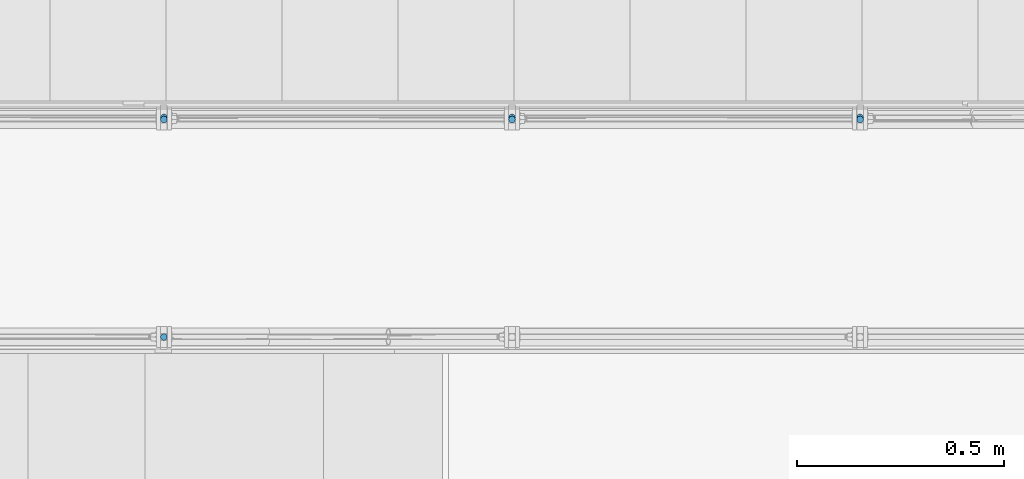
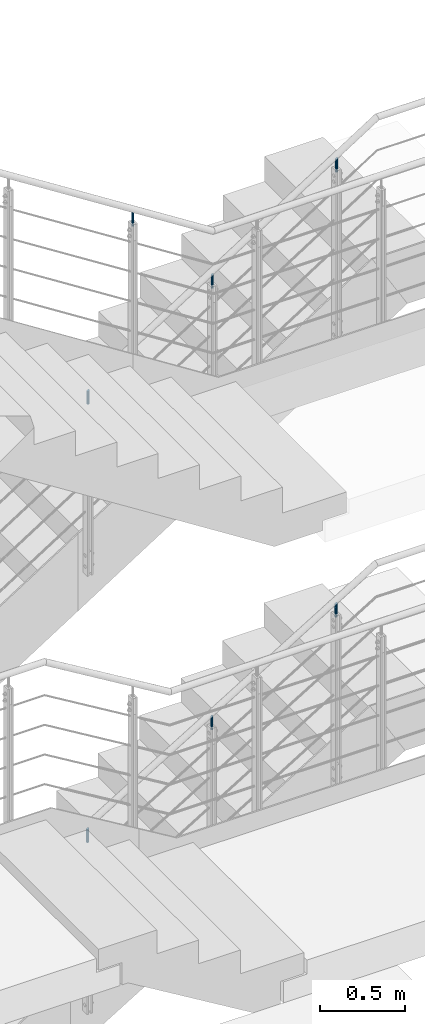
# One storey, part 7 of 98: 7 columns.
"""IFC2X3 building model written with IfcOpenShell, lengths in millimetres."""

from ifc_helpers import new_model, entity, si_unit, converted_unit, frame, origin, origin_with_axes, origin_2d, place, context, project, spatial, circle, extrude, clip, halfspace, material, element, save


model = new_model("IFC2X3")

# Units and contexts
model_context = context("Model", 3, precision=1e-09, world=origin_with_axes())
ifc_project = project(units=[si_unit("LENGTHUNIT", "METRE", prefix="MILLI"), si_unit("AREAUNIT", "SQUARE_METRE"), si_unit("VOLUMEUNIT", "CUBIC_METRE"), converted_unit("PLANEANGLEUNIT", "DEGREE", entity("IfcPlaneAngleMeasure", 0.01745329), si_unit("PLANEANGLEUNIT", "RADIAN"), dimensions=[0, 0, 0, 0, 0, 0, 0])], contexts=[model_context])

# Site, building, storey
site_placement = place(None, origin_with_axes())
site = spatial("IfcSite", under=ifc_project, at=site_placement, Name="Maybachstra?e 2, 71563 Affalterbach", CompositionType="ELEMENT")
building_placement = place(site_placement, origin_with_axes())
building = spatial("IfcBuilding", under=site, at=building_placement, Name="Struktur 1", CompositionType="ELEMENT")
storey_placement = place(building_placement, origin_with_axes())
storey = spatial("IfcBuildingStorey", under=building, at=storey_placement, Name="Default Storey", CompositionType="ELEMENT", Elevation=0.0)

# Columns
ifc_material = material(Name="1.4301")
column_1_placement = place(None, frame((10535.029157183, -45.0, 6444.971589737), z_axis=(0.0, 0.0, -1.0), x_axis=(1.0, 0.0, 0.0)))
element("IfcColumn", 1, at=column_1_placement, inside=storey, material=ifc_material, Name="-", ObjectType="-", context=model_context, shape_type="Clipping", body=[
    clip(extrude(circle(Radius=8.0, at=origin_2d()), origin(), (0.0, 0.0, 1.0), 113.412216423), halfspace(frame((-10407.841875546, -45.0, 6644.735527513), z_axis=(0.537070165, 0.0, 0.843537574), x_axis=(0.0, -1.0, 0.0)), True)),
])
column_2_placement = place(None, frame((9695.029157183, -570.0, 7499.85415603), z_axis=(0.0, 0.0, 1.0), x_axis=(-1.0, 0.0, 0.0)))
element("IfcColumn", 2, at=column_2_placement, inside=storey, material=ifc_material, Name="-", ObjectType="-", context=model_context, shape_type="Clipping", body=[
    clip(extrude(circle(Radius=8.0, at=origin_2d()), origin(), (0.0, 0.0, -1.0), 113.419634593), halfspace(frame((3498.708731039, -570.0, 2213.648852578), z_axis=(0.53780184, 0.0, -0.843071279), x_axis=(0.0, 1.0, 0.0)), True)),
])
column_3_placement = place(None, frame((9695.029157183, -40.0, 2774.675903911), z_axis=(0.0, 0.0, -1.0), x_axis=(1.0, 0.0, 0.0)))
element("IfcColumn", 3, at=column_3_placement, inside=storey, material=ifc_material, Name="-", ObjectType="-", context=model_context, shape_type="Clipping", body=[
    clip(extrude(circle(Radius=8.0, at=origin_2d()), origin(), (0.0, 0.0, 1.0), 113.243566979), halfspace(frame((-8299.601920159, -40.0, 5067.967914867), z_axis=(0.519813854, 0.0, 0.854279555), x_axis=(0.0, -1.0, 0.0)), True)),
])
column_4_placement = place(None, frame((10535.029157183, -40.0, 3285.800903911), z_axis=(0.0, 0.0, -1.0), x_axis=(1.0, 0.0, 0.0)))
element("IfcColumn", 4, at=column_4_placement, inside=storey, material=ifc_material, Name="-", ObjectType="-", context=model_context, shape_type="Clipping", body=[
    clip(extrude(circle(Radius=8.0, at=origin_2d()), origin(), (0.0, 0.0, 1.0), 113.243566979), halfspace(frame((-9139.601920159, -40.0, 5579.092914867), z_axis=(0.519813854, 0.0, 0.854279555), x_axis=(0.0, -1.0, 0.0)), True)),
])
column_5_placement = place(None, frame((11375.029157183, -40.0, 3796.925903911), z_axis=(0.0, 0.0, -1.0), x_axis=(1.0, 0.0, 0.0)))
element("IfcColumn", 5, at=column_5_placement, inside=storey, material=ifc_material, Name="-", ObjectType="-", context=model_context, shape_type="Clipping", body=[
    clip(extrude(circle(Radius=8.0, at=origin_2d()), origin(), (0.0, 0.0, 1.0), 113.243566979), halfspace(frame((-9979.601920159, -40.0, 6090.217914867), z_axis=(0.519813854, 0.0, 0.854279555), x_axis=(0.0, -1.0, 0.0)), True)),
])
column_6_placement = place(None, frame((11375.029157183, -45.0, 6979.78942405), z_axis=(0.0, 0.0, -1.0), x_axis=(1.0, 0.0, 0.0)))
element("IfcColumn", 6, at=column_6_placement, inside=storey, material=ifc_material, Name="-", ObjectType="-", context=model_context, shape_type="Clipping", body=[
    clip(extrude(circle(Radius=8.0, at=origin_2d()), origin(), (0.0, 0.0, 1.0), 113.412216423), halfspace(frame((-11247.841875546, -45.0, 7179.553361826), z_axis=(0.537070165, 0.0, 0.843537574), x_axis=(0.0, -1.0, 0.0)), True)),
])
column_7_placement = place(None, frame((9695.029157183, -45.0, 5910.153755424), z_axis=(0.0, 0.0, -1.0), x_axis=(1.0, 0.0, 0.0)))
element("IfcColumn", 7, at=column_7_placement, inside=storey, material=ifc_material, Name="-", ObjectType="-", context=model_context, shape_type="Clipping", body=[
    clip(extrude(circle(Radius=8.0, at=origin_2d()), origin(), (0.0, 0.0, 1.0), 113.412216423), halfspace(frame((-9567.841875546, -45.0, 6109.9176932), z_axis=(0.537070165, 0.0, 0.843537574), x_axis=(0.0, -1.0, 0.0)), True)),
])

save(model, "model.ifc")
